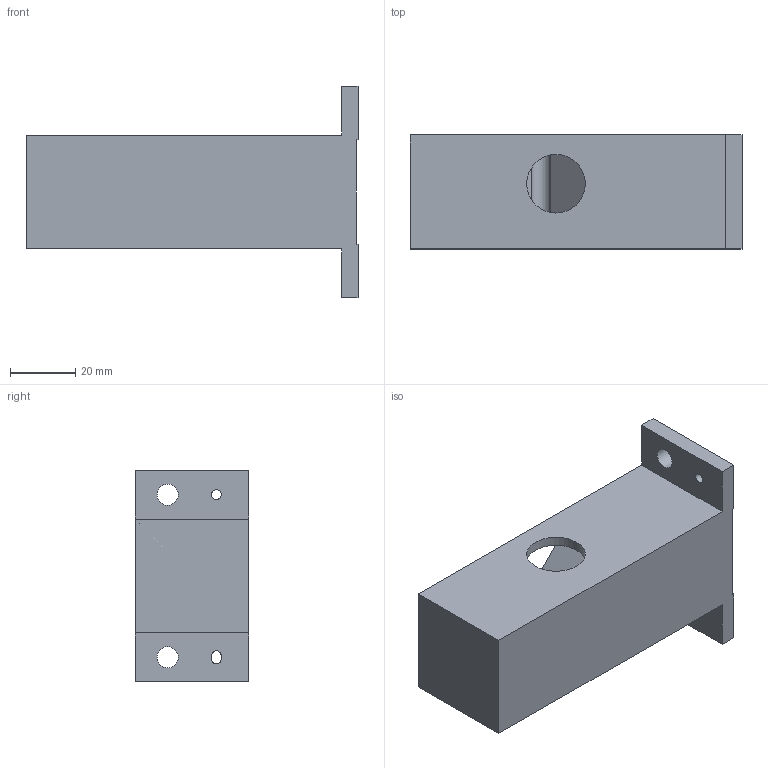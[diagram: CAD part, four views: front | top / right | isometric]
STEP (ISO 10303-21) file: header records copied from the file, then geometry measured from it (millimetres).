
FILE_DESCRIPTION(/* description */ (''),/* implementation_level */ '2;1');
FILE_NAME(/* name */ 'C:\Users\strothej\Documents\ActualDocuments\MicroscopeParts\TwoPhotonSystem\ScanningMechanics\v32\Drawings\Mirror_Periscope_Parallel.stp',/* time_stamp */ '2017-08-31T18:01:22-07:00',/* author */ ('strothej'),/* organization */ (''),/* preprocessor_version */ 'ST-DEVELOPER v16.1',/* originating_system */ 'Autodesk Inventor 2016',/* authorisation */ '');
FILE_SCHEMA (('AUTOMOTIVE_DESIGN { 1 0 10303 214 3 1 1 }'));
Length unit declared in the file: millimetre
Products named in the file (1): Mirror_Periscope_Parallel
Bounding box: 102 x 35 x 65 mm (x, y, z)
Volume: 94367 mm3; surface area: 22876.4 mm2
Topology: 1 solids, 1 shells, 38 faces, 110 edges, 74 vertices
Faces by surface type: plane 25, cylinder 13
Full cylindrical faces by diameter (mm): 3 x1, 6.5 x2, 18 x2
Entity records: 1259 total; most frequent: CARTESIAN_POINT 221, DIRECTION 205, ORIENTED_EDGE 204, EDGE_CURVE 102, LINE 75, VECTOR 75, VERTEX_POINT 71, AXIS2_PLACEMENT_3D 65
